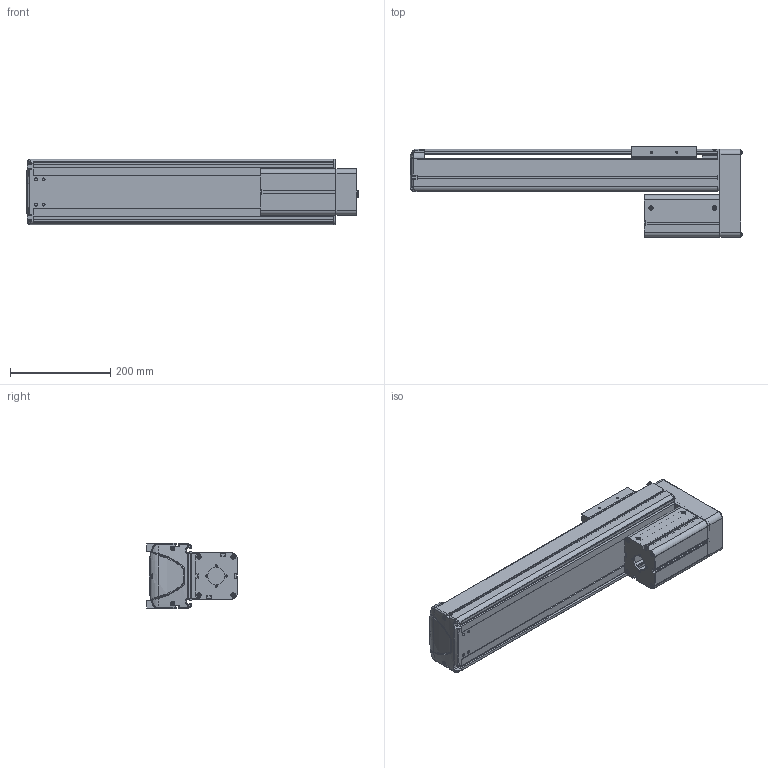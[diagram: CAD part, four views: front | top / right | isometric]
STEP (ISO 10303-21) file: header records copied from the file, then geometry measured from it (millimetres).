
FILE_DESCRIPTION((''),'2;1');
FILE_NAME('BE30E-UU-M_N-40_IGS_PRT','2017-06-17T',(' '),(''),'PRO/ENGINEER BY PARAMETRIC TECHNOLOGY CORPORATION, 2015030','PRO/ENGINEER BY PARAMETRIC TECHNOLOGY CORPORATION, 2015030','');
FILE_SCHEMA(('CONFIG_CONTROL_DESIGN'));
Length unit declared in the file: millimetre
Products named in the file (1): BE30E-UU-M_N-40_IGS_PRT
Bounding box: 661.9 x 180 x 130 mm (x, y, z)
Volume: 2465033.1 mm3; surface area: 1061195.3 mm2
Topology: 2 solids, 107 shells, 1980 faces, 5322 edges, 3444 vertices
Faces by surface type: plane 991, cylinder 789, cone 107, torus 39, bspline 30, sphere 24
Entity records: 63906 total; most frequent: CARTESIAN_POINT 13481, DIRECTION 10651, ORIENTED_EDGE 10164, EDGE_CURVE 5284, AXIS2_PLACEMENT_3D 3723, VERTEX_POINT 3444, VECTOR 3205, LINE 3205
